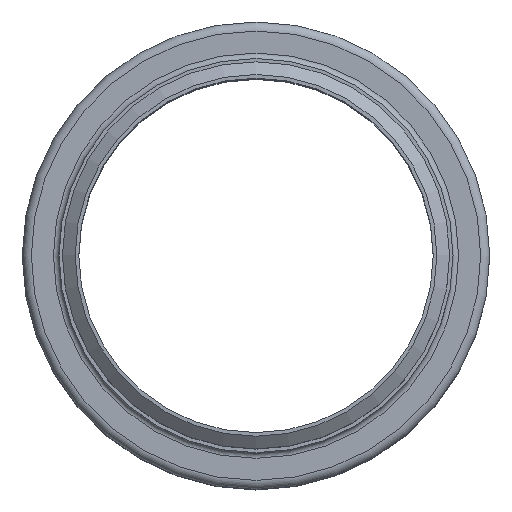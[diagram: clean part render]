
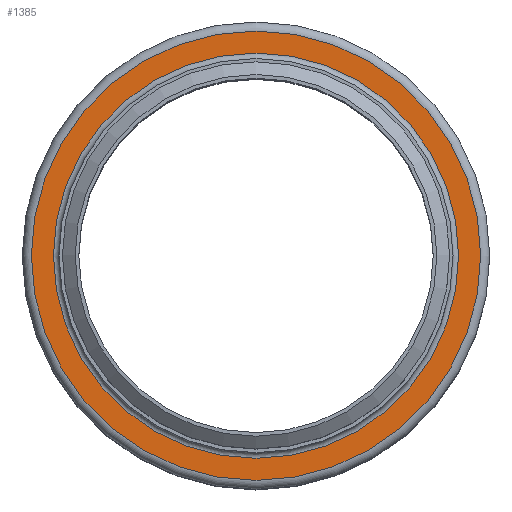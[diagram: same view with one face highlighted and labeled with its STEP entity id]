
A CAD part, top view. The second image highlights one B-rep face of the part: STEP entity #1385.
In plain terms, the highlighted planar face has unit normal (0, 0, 1).
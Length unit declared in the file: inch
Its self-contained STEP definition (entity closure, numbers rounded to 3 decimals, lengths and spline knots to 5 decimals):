
#155=FACE_BOUND('',#416,.T.);
#256=FACE_OUTER_BOUND('',#415,.T.);
#415=EDGE_LOOP('',(#1168));
#416=EDGE_LOOP('',(#1169));
#584=CIRCLE('',#1684,3.4675);
#585=CIRCLE('',#1686,3.845);
#703=VERTEX_POINT('',#2631);
#704=VERTEX_POINT('',#2635);
#862=EDGE_CURVE('',#703,#703,#584,.T.);
#863=EDGE_CURVE('',#704,#704,#585,.T.);
#1168=ORIENTED_EDGE('',*,*,#863,.F.);
#1169=ORIENTED_EDGE('',*,*,#862,.T.);
#1284=PLANE('',#1685);
#1385=ADVANCED_FACE('',(#256,#155),#1284,.T.);
#1684=AXIS2_PLACEMENT_3D('',#2633,#2197,#2198);
#1685=AXIS2_PLACEMENT_3D('',#2634,#2199,#2200);
#1686=AXIS2_PLACEMENT_3D('',#2636,#2201,#2202);
#2197=DIRECTION('center_axis',(0.,0.,-1.));
#2198=DIRECTION('ref_axis',(1.,0.,0.));
#2199=DIRECTION('center_axis',(0.,0.,1.));
#2200=DIRECTION('ref_axis',(1.,0.,0.));
#2201=DIRECTION('center_axis',(0.,0.,-1.));
#2202=DIRECTION('ref_axis',(1.,0.,0.));
#2631=CARTESIAN_POINT('',(3.4675,0.,-0.095));
#2633=CARTESIAN_POINT('Origin',(0.,0.,-0.095));
#2634=CARTESIAN_POINT('Origin',(0.,3.845,-0.095));
#2635=CARTESIAN_POINT('',(3.845,0.,-0.095));
#2636=CARTESIAN_POINT('Origin',(0.,0.,-0.095));
